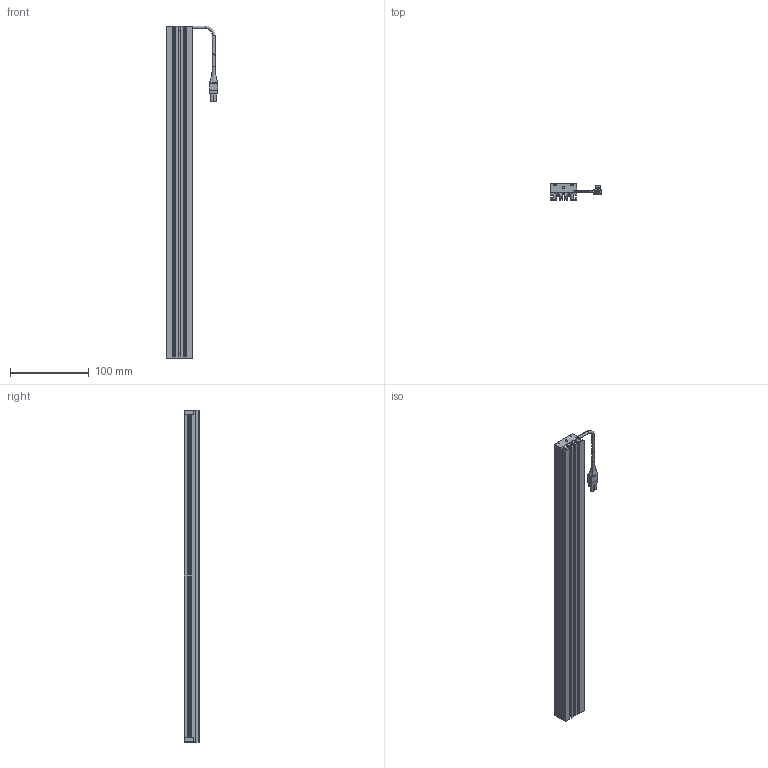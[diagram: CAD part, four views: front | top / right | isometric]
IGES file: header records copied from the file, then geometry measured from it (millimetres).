
Start section: SolidWorks IGES file using NURBS representation for surfaces
Global section: file name: U:\PRODUCTS\80_その他テーマ\RD32114_LDL2-GR2特注の標準化\02_図面\提出用\3D\45_LDL2-410X30GR2\LDL2-410X30GR2.IGS; native system: SolidWorks 2022; preprocessor: SolidWorks 2022; author: yamaguchims; date: 241002.183249; units: millimetre
Bounding box: 65.95 x 20 x 422 mm (x, y, z)
Surface area: 126434.4 mm2 (no closed solid volume)
Topology: 0 solids, 0 shells, 426 faces, 4226 edges, 4210 vertices
Faces by surface type: bspline 426
